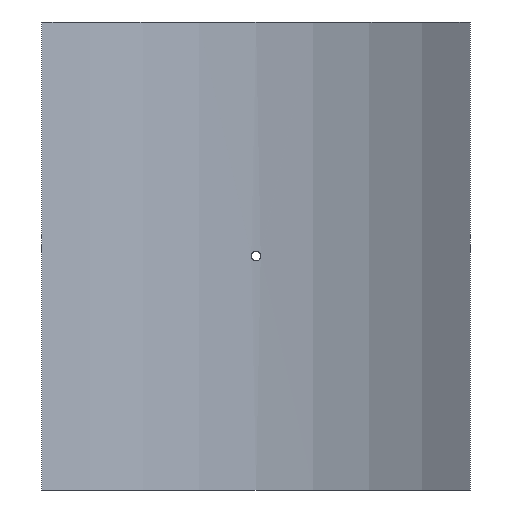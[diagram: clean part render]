
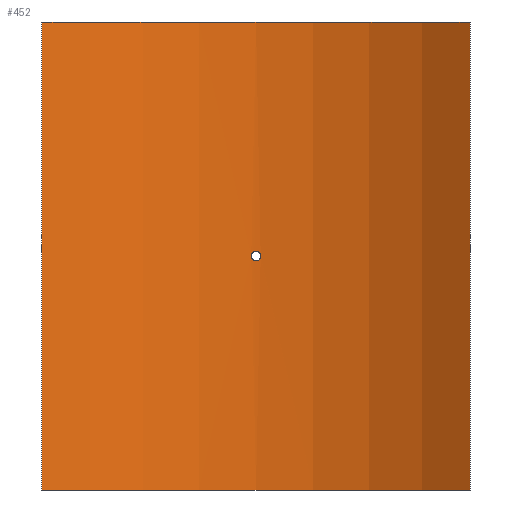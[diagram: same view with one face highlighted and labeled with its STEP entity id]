
A CAD part, front view. The second image highlights one B-rep face of the part: STEP entity #452.
In plain terms, the highlighted cylindrical face has radius 355 mm (diameter 710 mm), a partial arc.
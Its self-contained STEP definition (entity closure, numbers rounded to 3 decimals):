
#19=B_SPLINE_CURVE_WITH_KNOTS('',3,(#788,#789,#790,#791,#792,#793,#794,
#795,#796,#797,#798,#799,#800,#801,#802,#803,#804,#805,#806,#807,#808,#809,
#810,#811,#812,#813,#814,#815,#816,#817,#818,#819,#820,#821),
 .UNSPECIFIED.,.T.,.F.,(4,2,2,2,2,2,2,2,2,2,2,2,2,2,2,2,4),(0.,0.181,
0.362,0.542,0.723,0.904,
1.085,1.266,1.446,1.627,1.808,
1.989,2.17,2.351,2.531,2.712,
2.893),.UNSPECIFIED.);
#43=LINE('',#1065,#62);
#44=LINE('',#1068,#63);
#62=VECTOR('',#661,10.);
#63=VECTOR('',#664,10.);
#76=CYLINDRICAL_SURFACE('',#530,355.);
#88=FACE_BOUND('',#167,.T.);
#127=FACE_OUTER_BOUND('',#166,.T.);
#166=EDGE_LOOP('',(#405,#406,#407,#408));
#167=EDGE_LOOP('',(#409));
#201=CIRCLE('',#529,355.);
#202=CIRCLE('',#531,355.);
#219=VERTEX_POINT('',#786);
#242=VERTEX_POINT('',#1058);
#243=VERTEX_POINT('',#1060);
#244=VERTEX_POINT('',#1064);
#245=VERTEX_POINT('',#1066);
#267=EDGE_CURVE('',#219,#219,#19,.T.);
#299=EDGE_CURVE('',#242,#243,#201,.T.);
#301=EDGE_CURVE('',#244,#242,#43,.T.);
#302=EDGE_CURVE('',#245,#244,#202,.T.);
#303=EDGE_CURVE('',#245,#243,#44,.T.);
#405=ORIENTED_EDGE('',*,*,#301,.F.);
#406=ORIENTED_EDGE('',*,*,#302,.F.);
#407=ORIENTED_EDGE('',*,*,#303,.T.);
#408=ORIENTED_EDGE('',*,*,#299,.F.);
#409=ORIENTED_EDGE('',*,*,#267,.T.);
#452=ADVANCED_FACE('',(#127,#88),#76,.F.);
#529=AXIS2_PLACEMENT_3D('',#1061,#656,#657);
#530=AXIS2_PLACEMENT_3D('',#1063,#659,#660);
#531=AXIS2_PLACEMENT_3D('',#1067,#662,#663);
#656=DIRECTION('center_axis',(0.,0.,1.));
#657=DIRECTION('ref_axis',(0.606,0.796,0.));
#659=DIRECTION('center_axis',(0.,0.,1.));
#660=DIRECTION('ref_axis',(0.606,0.796,0.));
#661=DIRECTION('',(0.,0.,-1.));
#662=DIRECTION('center_axis',(0.,0.,-1.));
#663=DIRECTION('ref_axis',(0.606,0.796,0.));
#664=DIRECTION('',(0.,0.,-1.));
#786=CARTESIAN_POINT('',(4.8,354.968,0.));
#788=CARTESIAN_POINT('Ctrl Pts',(4.8,354.968,0.));
#789=CARTESIAN_POINT('Ctrl Pts',(4.8,354.968,-0.603));
#790=CARTESIAN_POINT('Ctrl Pts',(4.68,354.969,-1.246));
#791=CARTESIAN_POINT('Ctrl Pts',(4.19,354.975,-2.428));
#792=CARTESIAN_POINT('Ctrl Pts',(3.82,354.98,-2.968));
#793=CARTESIAN_POINT('Ctrl Pts',(2.968,354.988,-3.82));
#794=CARTESIAN_POINT('Ctrl Pts',(2.428,354.992,-4.19));
#795=CARTESIAN_POINT('Ctrl Pts',(1.246,354.998,-4.68));
#796=CARTESIAN_POINT('Ctrl Pts',(0.603,355.,-4.8));
#797=CARTESIAN_POINT('Ctrl Pts',(-0.603,355.,-4.8));
#798=CARTESIAN_POINT('Ctrl Pts',(-1.246,354.998,-4.68));
#799=CARTESIAN_POINT('Ctrl Pts',(-2.428,354.992,-4.19));
#800=CARTESIAN_POINT('Ctrl Pts',(-2.968,354.988,-3.82));
#801=CARTESIAN_POINT('Ctrl Pts',(-3.82,354.98,-2.968));
#802=CARTESIAN_POINT('Ctrl Pts',(-4.19,354.975,-2.428));
#803=CARTESIAN_POINT('Ctrl Pts',(-4.68,354.969,-1.246));
#804=CARTESIAN_POINT('Ctrl Pts',(-4.8,354.968,-0.603));
#805=CARTESIAN_POINT('Ctrl Pts',(-4.8,354.968,0.603));
#806=CARTESIAN_POINT('Ctrl Pts',(-4.68,354.969,1.246));
#807=CARTESIAN_POINT('Ctrl Pts',(-4.19,354.975,2.428));
#808=CARTESIAN_POINT('Ctrl Pts',(-3.82,354.98,2.968));
#809=CARTESIAN_POINT('Ctrl Pts',(-2.968,354.988,3.82));
#810=CARTESIAN_POINT('Ctrl Pts',(-2.428,354.992,4.19));
#811=CARTESIAN_POINT('Ctrl Pts',(-1.246,354.998,4.68));
#812=CARTESIAN_POINT('Ctrl Pts',(-0.603,355.,4.8));
#813=CARTESIAN_POINT('Ctrl Pts',(0.603,355.,4.8));
#814=CARTESIAN_POINT('Ctrl Pts',(1.246,354.998,4.68));
#815=CARTESIAN_POINT('Ctrl Pts',(2.428,354.992,4.19));
#816=CARTESIAN_POINT('Ctrl Pts',(2.968,354.988,3.82));
#817=CARTESIAN_POINT('Ctrl Pts',(3.82,354.98,2.968));
#818=CARTESIAN_POINT('Ctrl Pts',(4.19,354.975,2.428));
#819=CARTESIAN_POINT('Ctrl Pts',(4.68,354.969,1.246));
#820=CARTESIAN_POINT('Ctrl Pts',(4.8,354.968,0.603));
#821=CARTESIAN_POINT('Ctrl Pts',(4.8,354.968,0.));
#1058=CARTESIAN_POINT('',(215.,282.489,-235.));
#1060=CARTESIAN_POINT('',(-215.,282.489,-235.));
#1061=CARTESIAN_POINT('Origin',(0.,0.,
-235.));
#1063=CARTESIAN_POINT('Origin',(0.,0.,
0.));
#1064=CARTESIAN_POINT('',(215.,282.489,235.));
#1065=CARTESIAN_POINT('',(215.,282.489,0.));
#1066=CARTESIAN_POINT('',(-215.,282.489,235.));
#1067=CARTESIAN_POINT('Origin',(0.,0.,
235.));
#1068=CARTESIAN_POINT('',(-215.,282.489,0.));
